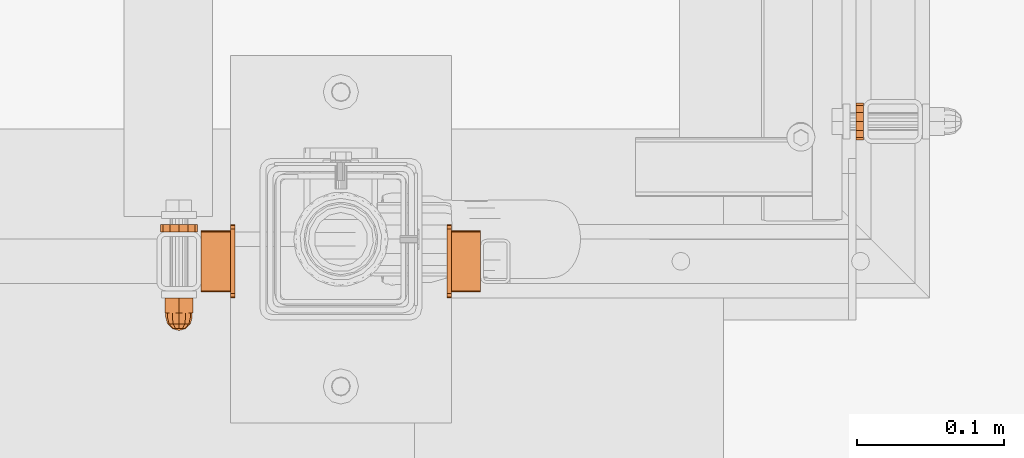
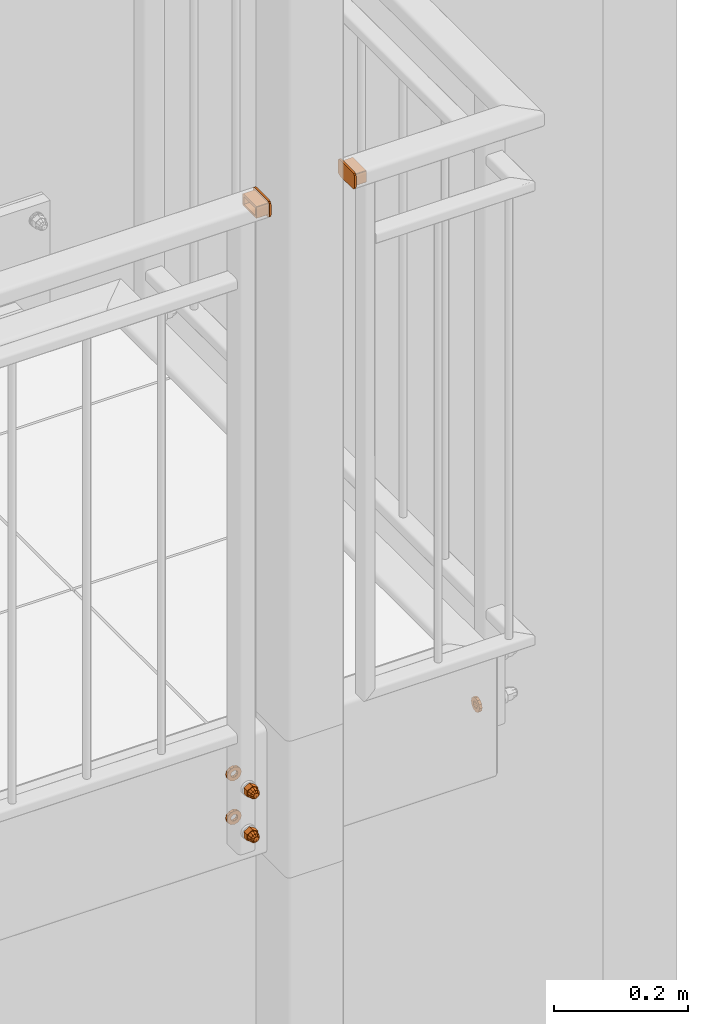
# One storey, part 123 of 162: 7 proxies.
"""IFC2X3 building model written with IfcOpenShell, lengths in millimetres."""

from ifc_helpers import new_model, entity, si_unit, converted_unit, origin_with_axes, place, context, project, spatial, faceted_brep, material, element, save


model = new_model("IFC2X3")

# Units and contexts
model_context = context("Model", 3, precision=1e-09, world=origin_with_axes())
ifc_project = project(units=[si_unit("LENGTHUNIT", "METRE", prefix="MILLI"), si_unit("AREAUNIT", "SQUARE_METRE"), si_unit("VOLUMEUNIT", "CUBIC_METRE"), converted_unit("PLANEANGLEUNIT", "DEGREE", entity("IfcPlaneAngleMeasure", 0.01745329), si_unit("PLANEANGLEUNIT", "RADIAN"), dimensions=[0, 0, 0, 0, 0, 0, 0])], contexts=[model_context])

# Site, building, storey
site_placement = place(None, origin_with_axes())
site = spatial("IfcSite", under=ifc_project, at=site_placement, Name="Hermannstra?e 1a, 60318 Frankfurt", CompositionType="ELEMENT")
building_placement = place(site_placement, origin_with_axes())
building = spatial("IfcBuilding", under=site, at=building_placement, Name="Struktur 1", CompositionType="ELEMENT")
storey_placement = place(building_placement, origin_with_axes())
storey = spatial("IfcBuildingStorey", under=building, at=storey_placement, Name="Default Storey", CompositionType="ELEMENT", Elevation=0.0)

# Proxies
ifc_material = material(Name="Kein")
proxy_1_placement = place(None, origin_with_axes())
element("IfcBuildingElementProxy", 1, at=proxy_1_placement, inside=storey, material=ifc_material, ObjectType="-", context=model_context, shape_type="Brep", body=[
    faceted_brep([(5378.30936482, 1494.609373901, 4949.0), (5378.30936482, 1494.609373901, 4931.0), (5398.30936482, 1494.609373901, 4931.0), (5398.30936482, 1494.609373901, 4949.0), (5398.30936482, 1494.877323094, 4950.0), (5378.30936482, 1494.877323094, 4950.0), (5378.30936482, 1495.609373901, 4950.732050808), (5398.30936482, 1495.609373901, 4950.732050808), (5398.30936482, 1496.609373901, 4951.0), (5378.30936482, 1496.609373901, 4951.0), (5378.30936482, 1494.877323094, 4930.0), (5398.30936482, 1494.877323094, 4930.0), (5378.30936482, 1495.609373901, 4929.267949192), (5398.30936482, 1495.609373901, 4929.267949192), (5378.30936482, 1534.609373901, 4951.0), (5378.30936482, 1535.609373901, 4950.732050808), (5378.30936482, 1536.341424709, 4950.0), (5378.30936482, 1536.609373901, 4949.0), (5378.30936482, 1536.609373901, 4931.0), (5378.30936482, 1536.341424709, 4930.0), (5378.30936482, 1535.609373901, 4929.267949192), (5378.30936482, 1534.609373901, 4929.0), (5378.30936482, 1496.609373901, 4929.0), (5378.30936482, 1498.609373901, 4947.0), (5378.30936482, 1498.609373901, 4933.0), (5378.30936482, 1532.609373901, 4933.0), (5378.30936482, 1532.609373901, 4947.0), (5398.30936482, 1496.609373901, 4929.0), (5398.30936482, 1534.609373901, 4929.0), (5398.30936482, 1535.609373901, 4929.267949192), (5398.30936482, 1536.341424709, 4930.0), (5398.30936482, 1536.609373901, 4931.0), (5398.30936482, 1536.609373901, 4949.0), (5398.30936482, 1536.341424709, 4950.0), (5398.30936482, 1535.609373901, 4950.732050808), (5398.30936482, 1534.609373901, 4951.0), (5398.30936482, 1498.609373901, 4947.0), (5398.30936482, 1498.609373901, 4933.0), (5398.30936482, 1532.609373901, 4933.0), (5398.30936482, 1532.609373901, 4947.0)], [[[0, 1, 2, 3]], [[0, 3, 4, 5]], [[6, 7, 8, 9]], [[5, 4, 7, 6]], [[2, 1, 10, 11]], [[11, 10, 12, 13]], [[5, 6, 9, 14, 15, 16, 17, 18, 19, 20, 21, 22, 12, 10, 1, 0], [23, 24, 25, 26]], [[3, 2, 11, 13, 27, 28, 29, 30, 31, 32, 33, 34, 35, 8, 7, 4]], [[34, 15, 14, 35]], [[14, 9, 8, 35]], [[36, 37, 24, 23]], [[15, 34, 33, 16]], [[13, 12, 22, 27]], [[25, 24, 37, 38]], [[22, 21, 28, 27]], [[28, 21, 20, 29]], [[39, 36, 23, 26]], [[16, 33, 32, 17]], [[29, 20, 19, 30]], [[26, 25, 38, 39]], [[18, 17, 32, 31]], [[30, 19, 18, 31]]]),
    faceted_brep([(5398.30936482, 1496.609373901, 4925.0), (5401.30936482, 1496.609373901, 4925.0), (5401.30936482, 1493.609373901, 4925.803847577), (5398.30936482, 1493.609373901, 4925.803847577), (5401.30936482, 1491.413221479, 4928.0), (5398.30936482, 1491.413221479, 4928.0), (5401.30936482, 1534.609373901, 4925.0), (5398.30936482, 1534.609373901, 4925.0), (5398.30936482, 1537.609373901, 4925.803847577), (5401.30936482, 1537.609373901, 4925.803847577), (5398.30936482, 1539.805526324, 4928.0), (5401.30936482, 1539.805526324, 4928.0), (5398.30936482, 1490.609373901, 4931.0), (5398.30936482, 1490.609373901, 4949.0), (5398.30936482, 1491.413221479, 4952.0), (5398.30936482, 1493.609373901, 4954.196152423), (5398.30936482, 1496.609373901, 4955.0), (5398.30936482, 1534.609373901, 4955.0), (5398.30936482, 1537.609373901, 4954.196152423), (5398.30936482, 1539.805526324, 4952.0), (5398.30936482, 1540.609373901, 4949.0), (5398.30936482, 1540.609373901, 4931.0), (5401.30936482, 1540.609373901, 4931.0), (5401.30936482, 1540.609373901, 4949.0), (5401.30936482, 1539.805526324, 4952.0), (5401.30936482, 1537.609373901, 4954.196152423), (5401.30936482, 1534.609373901, 4955.0), (5401.30936482, 1496.609373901, 4955.0), (5401.30936482, 1493.609373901, 4954.196152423), (5401.30936482, 1491.413221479, 4952.0), (5401.30936482, 1490.609373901, 4949.0), (5401.30936482, 1490.609373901, 4931.0)], [[[0, 1, 2, 3]], [[3, 2, 4, 5]], [[6, 7, 8, 9]], [[9, 8, 10, 11]], [[5, 12, 13, 14, 15, 16, 17, 18, 19, 20, 21, 10, 8, 7, 0, 3]], [[6, 1, 0, 7]], [[11, 22, 23, 24, 25, 26, 27, 28, 29, 30, 31, 4, 2, 1, 6, 9]], [[5, 4, 31, 12]], [[13, 12, 31, 30]], [[11, 10, 21, 22]], [[28, 15, 14, 29]], [[29, 14, 13, 30]], [[15, 28, 27, 16]], [[23, 22, 21, 20]], [[17, 16, 27, 26]], [[23, 20, 19, 24]], [[25, 18, 17, 26]], [[24, 19, 18, 25]]]),
])
proxy_2_placement = place(None, origin_with_axes())
element("IfcBuildingElementProxy", 2, at=proxy_2_placement, inside=storey, material=ifc_material, ObjectType="-", context=model_context, shape_type="Brep", body=[
    faceted_brep([(5568.30936482, 1494.609373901, 4931.0), (5568.30936482, 1494.609373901, 4949.0), (5548.30936482, 1494.609373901, 4949.0), (5548.30936482, 1494.609373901, 4931.0), (5568.30936482, 1494.877323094, 4950.0), (5548.30936482, 1494.877323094, 4950.0), (5548.30936482, 1495.609373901, 4950.732050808), (5568.30936482, 1495.609373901, 4950.732050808), (5568.30936482, 1496.609373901, 4951.0), (5548.30936482, 1496.609373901, 4951.0), (5548.30936482, 1494.877323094, 4930.0), (5568.30936482, 1494.877323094, 4930.0), (5548.30936482, 1495.609373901, 4929.267949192), (5568.30936482, 1495.609373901, 4929.267949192), (5568.30936482, 1496.609373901, 4929.0), (5568.30936482, 1534.609373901, 4929.0), (5568.30936482, 1535.609373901, 4929.267949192), (5568.30936482, 1536.341424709, 4930.0), (5568.30936482, 1536.609373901, 4931.0), (5568.30936482, 1536.609373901, 4949.0), (5568.30936482, 1536.341424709, 4950.0), (5568.30936482, 1535.609373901, 4950.732050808), (5568.30936482, 1534.609373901, 4951.0), (5568.30936482, 1498.609373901, 4947.0), (5568.30936482, 1532.609373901, 4947.0), (5568.30936482, 1532.609373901, 4933.0), (5568.30936482, 1498.609373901, 4933.0), (5548.30936482, 1534.609373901, 4951.0), (5548.30936482, 1535.609373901, 4950.732050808), (5548.30936482, 1536.341424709, 4950.0), (5548.30936482, 1536.609373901, 4949.0), (5548.30936482, 1536.609373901, 4931.0), (5548.30936482, 1536.341424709, 4930.0), (5548.30936482, 1535.609373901, 4929.267949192), (5548.30936482, 1534.609373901, 4929.0), (5548.30936482, 1496.609373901, 4929.0), (5548.30936482, 1498.609373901, 4947.0), (5548.30936482, 1498.609373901, 4933.0), (5548.30936482, 1532.609373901, 4933.0), (5548.30936482, 1532.609373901, 4947.0)], [[[0, 1, 2, 3]], [[2, 1, 4, 5]], [[6, 7, 8, 9]], [[5, 4, 7, 6]], [[0, 3, 10, 11]], [[11, 10, 12, 13]], [[7, 4, 1, 0, 11, 13, 14, 15, 16, 17, 18, 19, 20, 21, 22, 8], [23, 24, 25, 26]], [[3, 2, 5, 6, 9, 27, 28, 29, 30, 31, 32, 33, 34, 35, 12, 10], [36, 37, 38, 39]], [[21, 28, 27, 22]], [[8, 22, 27, 9]], [[37, 36, 23, 26]], [[28, 21, 20, 29]], [[13, 12, 35, 14]], [[26, 25, 38, 37]], [[15, 14, 35, 34]], [[15, 34, 33, 16]], [[36, 39, 24, 23]], [[29, 20, 19, 30]], [[16, 33, 32, 17]], [[25, 24, 39, 38]], [[19, 18, 31, 30]], [[17, 32, 31, 18]]]),
    faceted_brep([(5545.30936482, 1496.609373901, 4925.0), (5548.30936482, 1496.609373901, 4925.0), (5548.30936482, 1493.609373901, 4925.803847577), (5545.30936482, 1493.609373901, 4925.803847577), (5548.30936482, 1491.413221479, 4928.0), (5545.30936482, 1491.413221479, 4928.0), (5548.30936482, 1534.609373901, 4925.0), (5545.30936482, 1534.609373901, 4925.0), (5545.30936482, 1537.609373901, 4925.803847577), (5548.30936482, 1537.609373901, 4925.803847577), (5545.30936482, 1539.805526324, 4928.0), (5548.30936482, 1539.805526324, 4928.0), (5548.30936482, 1490.609373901, 4931.0), (5548.30936482, 1540.609373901, 4931.0), (5548.30936482, 1540.609373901, 4949.0), (5548.30936482, 1539.805526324, 4952.0), (5548.30936482, 1537.609373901, 4954.196152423), (5548.30936482, 1534.609373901, 4955.0), (5548.30936482, 1496.609373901, 4955.0), (5548.30936482, 1493.609373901, 4954.196152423), (5548.30936482, 1491.413221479, 4952.0), (5548.30936482, 1490.609373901, 4949.0), (5545.30936482, 1540.609373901, 4931.0), (5545.30936482, 1490.609373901, 4931.0), (5545.30936482, 1490.609373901, 4949.0), (5545.30936482, 1491.413221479, 4952.0), (5545.30936482, 1493.609373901, 4954.196152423), (5545.30936482, 1496.609373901, 4955.0), (5545.30936482, 1534.609373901, 4955.0), (5545.30936482, 1537.609373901, 4954.196152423), (5545.30936482, 1539.805526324, 4952.0), (5545.30936482, 1540.609373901, 4949.0)], [[[0, 1, 2, 3]], [[3, 2, 4, 5]], [[6, 7, 8, 9]], [[9, 8, 10, 11]], [[12, 4, 2, 1, 6, 9, 11, 13, 14, 15, 16, 17, 18, 19, 20, 21]], [[0, 7, 6, 1]], [[22, 10, 8, 7, 0, 3, 5, 23, 24, 25, 26, 27, 28, 29, 30, 31]], [[5, 4, 12, 23]], [[12, 21, 24, 23]], [[11, 10, 22, 13]], [[19, 26, 25, 20]], [[20, 25, 24, 21]], [[26, 19, 18, 27]], [[22, 31, 14, 13]], [[18, 17, 28, 27]], [[14, 31, 30, 15]], [[16, 29, 28, 17]], [[15, 30, 29, 16]]]),
])
proxy_3_placement = place(None, origin_with_axes())
element("IfcBuildingElementProxy", 3, at=proxy_3_placement, inside=storey, material=ifc_material, ObjectType="-", context=model_context, shape_type="Brep", body=[
    faceted_brep([(5357.30936482, 1490.609373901, 3815.0), (5357.30936482, 1480.609373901, 3815.0), (5358.113212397, 1480.609373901, 3812.0), (5358.113212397, 1490.609373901, 3812.0), (5360.30936482, 1480.609373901, 3809.803847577), (5360.30936482, 1490.609373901, 3809.803847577), (5358.113212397, 1490.609373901, 3818.0), (5358.113212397, 1480.609373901, 3818.0), (5353.829495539, 1490.609373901, 3820.473205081), (5363.30936482, 1490.609373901, 3825.946410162), (5372.7892341, 1490.609373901, 3820.473205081), (5372.7892341, 1490.609373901, 3809.526794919), (5363.30936482, 1490.609373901, 3804.053589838), (5353.829495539, 1490.609373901, 3809.526794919), (5360.30936482, 1490.609373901, 3820.196152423), (5363.30936482, 1490.609373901, 3809.0), (5366.30936482, 1490.609373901, 3809.803847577), (5368.505517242, 1490.609373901, 3812.0), (5369.30936482, 1490.609373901, 3815.0), (5368.505517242, 1490.609373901, 3818.0), (5366.30936482, 1490.609373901, 3820.196152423), (5363.30936482, 1490.609373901, 3821.0), (5363.30936482, 1480.609373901, 3825.946410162), (5353.829495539, 1480.609373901, 3820.473205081), (5353.829495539, 1480.609373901, 3809.526794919), (5363.30936482, 1480.609373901, 3804.053589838), (5372.7892341, 1480.609373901, 3809.526794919), (5372.7892341, 1480.609373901, 3820.473205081), (5360.30936482, 1480.609373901, 3820.196152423), (5363.30936482, 1480.609373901, 3821.0), (5366.30936482, 1480.609373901, 3820.196152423), (5368.505517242, 1480.609373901, 3818.0), (5369.30936482, 1480.609373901, 3815.0), (5368.505517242, 1480.609373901, 3812.0), (5366.30936482, 1480.609373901, 3809.803847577), (5363.30936482, 1480.609373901, 3809.0)], [[[0, 1, 2, 3]], [[3, 2, 4, 5]], [[1, 0, 6, 7]], [[8, 9, 10, 11, 12, 13], [14, 6, 0, 3, 5, 15, 16, 17, 18, 19, 20, 21]], [[22, 23, 24, 25, 26, 27], [1, 7, 28, 29, 30, 31, 32, 33, 34, 35, 4, 2]], [[7, 6, 14, 28]], [[24, 23, 8, 13]], [[5, 4, 35, 15]], [[13, 12, 25, 24]], [[28, 14, 21, 29]], [[23, 22, 9, 8]], [[15, 35, 34, 16]], [[12, 11, 26, 25]], [[29, 21, 20, 30]], [[22, 27, 10, 9]], [[16, 34, 33, 17]], [[27, 26, 11, 10]], [[30, 20, 19, 31]], [[17, 33, 32, 18]], [[31, 19, 18, 32]]]),
    faceted_brep([(5363.30936482, 1480.609373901, 3824.0), (5363.30936482, 1477.609373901, 3824.0), (5367.80936482, 1477.609373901, 3822.794228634), (5367.80936482, 1480.609373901, 3822.794228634), (5358.80936482, 1480.609373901, 3822.794228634), (5358.80936482, 1477.609373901, 3822.794228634), (5355.515136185, 1477.609373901, 3810.5), (5358.80936482, 1477.609373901, 3807.205771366), (5363.30936482, 1477.609373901, 3806.0), (5367.80936482, 1477.609373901, 3807.205771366), (5371.103593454, 1477.609373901, 3810.5), (5372.30936482, 1477.609373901, 3815.0), (5371.103593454, 1477.609373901, 3819.5), (5355.515136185, 1477.609373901, 3819.5), (5354.30936482, 1477.609373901, 3815.0), (5371.103593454, 1480.609373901, 3810.5), (5367.80936482, 1480.609373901, 3807.205771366), (5363.30936482, 1480.609373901, 3806.0), (5358.80936482, 1480.609373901, 3807.205771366), (5355.515136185, 1480.609373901, 3810.5), (5354.30936482, 1480.609373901, 3815.0), (5355.515136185, 1480.609373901, 3819.5), (5371.103593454, 1480.609373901, 3819.5), (5372.30936482, 1480.609373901, 3815.0)], [[[0, 1, 2, 3]], [[1, 0, 4, 5]], [[6, 7, 8, 9, 10, 11, 12, 2, 1, 5, 13, 14]], [[15, 16, 17, 18, 19, 20, 21, 4, 0, 3, 22, 23]], [[3, 2, 12, 22]], [[5, 4, 21, 13]], [[22, 12, 11, 23]], [[13, 21, 20, 14]], [[7, 18, 17, 8]], [[19, 6, 14, 20]], [[18, 7, 6, 19]], [[23, 11, 10, 15]], [[8, 17, 16, 9]], [[15, 10, 9, 16]]]),
    faceted_brep([(5355.515136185, 1477.609373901, 3819.5), (5356.55936482, 1473.109373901, 3818.897114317), (5359.412250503, 1473.109373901, 3821.75), (5358.80936482, 1477.609373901, 3822.794228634), (5371.103593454, 1477.609373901, 3810.5), (5367.80936482, 1477.609373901, 3807.205771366), (5363.30936482, 1477.609373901, 3806.0), (5358.80936482, 1477.609373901, 3807.205771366), (5355.515136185, 1477.609373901, 3810.5), (5354.30936482, 1477.609373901, 3815.0), (5363.30936482, 1477.609373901, 3824.0), (5367.80936482, 1477.609373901, 3822.794228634), (5371.103593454, 1477.609373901, 3819.5), (5372.30936482, 1477.609373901, 3815.0), (5363.30936482, 1473.109373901, 3822.794228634), (5355.515136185, 1473.109373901, 3815.0), (5358.80936482, 1469.815145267, 3815.0), (5359.412250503, 1469.815145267, 3817.25), (5367.206479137, 1473.109373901, 3821.75), (5361.05936482, 1469.815145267, 3818.897114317), (5356.55936482, 1473.109373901, 3811.102885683), (5359.412250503, 1469.815145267, 3812.75), (5363.30936482, 1469.815145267, 3819.5), (5363.30936482, 1468.609373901, 3815.0), (5359.412250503, 1473.109373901, 3808.25), (5361.05936482, 1469.815145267, 3811.102885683), (5363.30936482, 1473.109373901, 3807.205771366), (5370.05936482, 1473.109373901, 3818.897114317), (5365.55936482, 1469.815145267, 3818.897114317), (5363.30936482, 1469.815145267, 3810.5), (5367.206479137, 1473.109373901, 3808.25), (5365.55936482, 1469.815145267, 3811.102885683), (5371.103593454, 1473.109373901, 3815.0), (5367.206479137, 1469.815145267, 3817.25), (5370.05936482, 1473.109373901, 3811.102885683), (5367.206479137, 1469.815145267, 3812.75), (5367.80936482, 1469.815145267, 3815.0)], [[[0, 1, 2, 3]], [[4, 5, 6, 7, 8, 9, 0, 3, 10, 11, 12, 13]], [[3, 2, 14, 10]], [[15, 16, 17, 1]], [[1, 0, 9, 15]], [[10, 14, 18, 11]], [[1, 17, 19, 2]], [[16, 15, 20, 21]], [[2, 19, 22, 14]], [[23, 17, 16]], [[24, 25, 21, 20]], [[23, 16, 21]], [[24, 7, 6, 26]], [[20, 8, 7, 24]], [[15, 9, 8, 20]], [[11, 18, 27, 12]], [[14, 22, 28, 18]], [[23, 19, 17]], [[26, 29, 25, 24]], [[23, 21, 25]], [[23, 22, 19]], [[26, 6, 5, 30]], [[29, 26, 30, 31]], [[23, 25, 29]], [[12, 27, 32, 13]], [[18, 28, 33, 27]], [[23, 28, 22]], [[23, 29, 31]], [[23, 33, 28]], [[30, 5, 4, 34]], [[31, 30, 34, 35]], [[23, 31, 35]], [[13, 32, 34, 4]], [[27, 33, 36, 32]], [[23, 36, 33]], [[23, 35, 36]], [[35, 34, 32, 36]]]),
])
proxy_4_placement = place(None, origin_with_axes())
element("IfcBuildingElementProxy", 4, at=proxy_4_placement, inside=storey, material=ifc_material, ObjectType="-", context=model_context, shape_type="Brep", body=[
    faceted_brep([(5357.30936482, 1490.609373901, 3895.0), (5357.30936482, 1480.609373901, 3895.0), (5358.113212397, 1480.609373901, 3892.0), (5358.113212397, 1490.609373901, 3892.0), (5360.30936482, 1480.609373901, 3889.803847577), (5360.30936482, 1490.609373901, 3889.803847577), (5358.113212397, 1490.609373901, 3898.0), (5358.113212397, 1480.609373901, 3898.0), (5353.829495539, 1490.609373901, 3900.473205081), (5363.30936482, 1490.609373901, 3905.946410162), (5372.7892341, 1490.609373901, 3900.473205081), (5372.7892341, 1490.609373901, 3889.526794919), (5363.30936482, 1490.609373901, 3884.053589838), (5353.829495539, 1490.609373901, 3889.526794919), (5360.30936482, 1490.609373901, 3900.196152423), (5363.30936482, 1490.609373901, 3889.0), (5366.30936482, 1490.609373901, 3889.803847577), (5368.505517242, 1490.609373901, 3892.0), (5369.30936482, 1490.609373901, 3895.0), (5368.505517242, 1490.609373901, 3898.0), (5366.30936482, 1490.609373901, 3900.196152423), (5363.30936482, 1490.609373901, 3901.0), (5363.30936482, 1480.609373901, 3905.946410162), (5353.829495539, 1480.609373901, 3900.473205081), (5353.829495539, 1480.609373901, 3889.526794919), (5363.30936482, 1480.609373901, 3884.053589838), (5372.7892341, 1480.609373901, 3889.526794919), (5372.7892341, 1480.609373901, 3900.473205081), (5360.30936482, 1480.609373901, 3900.196152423), (5363.30936482, 1480.609373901, 3901.0), (5366.30936482, 1480.609373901, 3900.196152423), (5368.505517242, 1480.609373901, 3898.0), (5369.30936482, 1480.609373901, 3895.0), (5368.505517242, 1480.609373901, 3892.0), (5366.30936482, 1480.609373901, 3889.803847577), (5363.30936482, 1480.609373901, 3889.0)], [[[0, 1, 2, 3]], [[3, 2, 4, 5]], [[1, 0, 6, 7]], [[8, 9, 10, 11, 12, 13], [14, 6, 0, 3, 5, 15, 16, 17, 18, 19, 20, 21]], [[22, 23, 24, 25, 26, 27], [1, 7, 28, 29, 30, 31, 32, 33, 34, 35, 4, 2]], [[7, 6, 14, 28]], [[24, 23, 8, 13]], [[5, 4, 35, 15]], [[13, 12, 25, 24]], [[28, 14, 21, 29]], [[23, 22, 9, 8]], [[15, 35, 34, 16]], [[12, 11, 26, 25]], [[29, 21, 20, 30]], [[22, 27, 10, 9]], [[16, 34, 33, 17]], [[27, 26, 11, 10]], [[30, 20, 19, 31]], [[17, 33, 32, 18]], [[31, 19, 18, 32]]]),
    faceted_brep([(5363.30936482, 1480.609373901, 3904.0), (5363.30936482, 1477.609373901, 3904.0), (5367.80936482, 1477.609373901, 3902.794228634), (5367.80936482, 1480.609373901, 3902.794228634), (5358.80936482, 1480.609373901, 3902.794228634), (5358.80936482, 1477.609373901, 3902.794228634), (5355.515136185, 1477.609373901, 3890.5), (5358.80936482, 1477.609373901, 3887.205771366), (5363.30936482, 1477.609373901, 3886.0), (5367.80936482, 1477.609373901, 3887.205771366), (5371.103593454, 1477.609373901, 3890.5), (5372.30936482, 1477.609373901, 3895.0), (5371.103593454, 1477.609373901, 3899.5), (5355.515136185, 1477.609373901, 3899.5), (5354.30936482, 1477.609373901, 3895.0), (5371.103593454, 1480.609373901, 3890.5), (5367.80936482, 1480.609373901, 3887.205771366), (5363.30936482, 1480.609373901, 3886.0), (5358.80936482, 1480.609373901, 3887.205771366), (5355.515136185, 1480.609373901, 3890.5), (5354.30936482, 1480.609373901, 3895.0), (5355.515136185, 1480.609373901, 3899.5), (5371.103593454, 1480.609373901, 3899.5), (5372.30936482, 1480.609373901, 3895.0)], [[[0, 1, 2, 3]], [[1, 0, 4, 5]], [[6, 7, 8, 9, 10, 11, 12, 2, 1, 5, 13, 14]], [[15, 16, 17, 18, 19, 20, 21, 4, 0, 3, 22, 23]], [[3, 2, 12, 22]], [[5, 4, 21, 13]], [[22, 12, 11, 23]], [[13, 21, 20, 14]], [[7, 18, 17, 8]], [[19, 6, 14, 20]], [[18, 7, 6, 19]], [[23, 11, 10, 15]], [[8, 17, 16, 9]], [[15, 10, 9, 16]]]),
    faceted_brep([(5355.515136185, 1477.609373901, 3899.5), (5356.55936482, 1473.109373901, 3898.897114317), (5359.412250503, 1473.109373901, 3901.75), (5358.80936482, 1477.609373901, 3902.794228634), (5371.103593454, 1477.609373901, 3890.5), (5367.80936482, 1477.609373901, 3887.205771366), (5363.30936482, 1477.609373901, 3886.0), (5358.80936482, 1477.609373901, 3887.205771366), (5355.515136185, 1477.609373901, 3890.5), (5354.30936482, 1477.609373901, 3895.0), (5363.30936482, 1477.609373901, 3904.0), (5367.80936482, 1477.609373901, 3902.794228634), (5371.103593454, 1477.609373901, 3899.5), (5372.30936482, 1477.609373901, 3895.0), (5363.30936482, 1473.109373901, 3902.794228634), (5355.515136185, 1473.109373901, 3895.0), (5358.80936482, 1469.815145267, 3895.0), (5359.412250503, 1469.815145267, 3897.25), (5367.206479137, 1473.109373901, 3901.75), (5361.05936482, 1469.815145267, 3898.897114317), (5356.55936482, 1473.109373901, 3891.102885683), (5359.412250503, 1469.815145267, 3892.75), (5363.30936482, 1469.815145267, 3899.5), (5363.30936482, 1468.609373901, 3895.0), (5359.412250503, 1473.109373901, 3888.25), (5361.05936482, 1469.815145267, 3891.102885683), (5363.30936482, 1473.109373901, 3887.205771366), (5370.05936482, 1473.109373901, 3898.897114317), (5365.55936482, 1469.815145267, 3898.897114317), (5363.30936482, 1469.815145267, 3890.5), (5367.206479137, 1473.109373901, 3888.25), (5365.55936482, 1469.815145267, 3891.102885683), (5371.103593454, 1473.109373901, 3895.0), (5367.206479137, 1469.815145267, 3897.25), (5370.05936482, 1473.109373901, 3891.102885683), (5367.206479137, 1469.815145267, 3892.75), (5367.80936482, 1469.815145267, 3895.0)], [[[0, 1, 2, 3]], [[4, 5, 6, 7, 8, 9, 0, 3, 10, 11, 12, 13]], [[3, 2, 14, 10]], [[15, 16, 17, 1]], [[1, 0, 9, 15]], [[10, 14, 18, 11]], [[1, 17, 19, 2]], [[16, 15, 20, 21]], [[2, 19, 22, 14]], [[23, 17, 16]], [[24, 25, 21, 20]], [[23, 16, 21]], [[24, 7, 6, 26]], [[20, 8, 7, 24]], [[15, 9, 8, 20]], [[11, 18, 27, 12]], [[14, 22, 28, 18]], [[23, 19, 17]], [[26, 29, 25, 24]], [[23, 21, 25]], [[23, 22, 19]], [[26, 6, 5, 30]], [[29, 26, 30, 31]], [[23, 25, 29]], [[12, 27, 32, 13]], [[18, 28, 33, 27]], [[23, 28, 22]], [[23, 29, 31]], [[23, 33, 28]], [[30, 5, 4, 34]], [[31, 30, 34, 35]], [[23, 31, 35]], [[13, 32, 34, 4]], [[27, 33, 36, 32]], [[23, 36, 33]], [[23, 35, 36]], [[35, 34, 32, 36]]]),
])
proxy_5_placement = place(None, origin_with_axes())
element("IfcBuildingElementProxy", 5, at=proxy_5_placement, inside=storey, material=ifc_material, ObjectType="-", context=model_context, shape_type="Brep", body=[
    faceted_brep([(5352.484047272, 1535.609373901, 3888.75), (5357.05936482, 1535.609373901, 3884.174682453), (5363.30936482, 1535.609373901, 3882.5), (5369.55936482, 1535.609373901, 3884.174682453), (5374.134682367, 1535.609373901, 3888.75), (5375.80936482, 1535.609373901, 3895.0), (5374.134682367, 1535.609373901, 3901.25), (5369.55936482, 1535.609373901, 3905.825317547), (5363.30936482, 1535.609373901, 3907.5), (5357.05936482, 1535.609373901, 3905.825317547), (5352.484047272, 1535.609373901, 3901.25), (5350.80936482, 1535.609373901, 3895.0), (5363.30936482, 1535.609373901, 3889.0), (5360.30936482, 1535.609373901, 3889.803847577), (5358.113212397, 1535.609373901, 3892.0), (5357.30936482, 1535.609373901, 3895.0), (5358.113212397, 1535.609373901, 3898.0), (5360.30936482, 1535.609373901, 3900.196152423), (5363.30936482, 1535.609373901, 3901.0), (5366.30936482, 1535.609373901, 3900.196152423), (5368.505517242, 1535.609373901, 3898.0), (5369.30936482, 1535.609373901, 3895.0), (5368.505517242, 1535.609373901, 3892.0), (5366.30936482, 1535.609373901, 3889.803847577), (5352.484047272, 1540.609373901, 3888.75), (5357.05936482, 1540.609373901, 3884.174682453), (5350.80936482, 1540.609373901, 3895.0), (5352.484047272, 1540.609373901, 3901.25), (5357.05936482, 1540.609373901, 3905.825317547), (5363.30936482, 1540.609373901, 3907.5), (5369.55936482, 1540.609373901, 3905.825317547), (5374.134682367, 1540.609373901, 3901.25), (5375.80936482, 1540.609373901, 3895.0), (5374.134682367, 1540.609373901, 3888.75), (5369.55936482, 1540.609373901, 3884.174682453), (5363.30936482, 1540.609373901, 3882.5), (5358.113212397, 1540.609373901, 3898.0), (5357.30936482, 1540.609373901, 3895.0), (5358.113212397, 1540.609373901, 3892.0), (5360.30936482, 1540.609373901, 3889.803847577), (5363.30936482, 1540.609373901, 3889.0), (5366.30936482, 1540.609373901, 3889.803847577), (5368.505517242, 1540.609373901, 3892.0), (5369.30936482, 1540.609373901, 3895.0), (5368.505517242, 1540.609373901, 3898.0), (5366.30936482, 1540.609373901, 3900.196152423), (5363.30936482, 1540.609373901, 3901.0), (5360.30936482, 1540.609373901, 3900.196152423)], [[[0, 1, 2, 3, 4, 5, 6, 7, 8, 9, 10, 11], [12, 13, 14, 15, 16, 17, 18, 19, 20, 21, 22, 23]], [[0, 24, 25, 1]], [[24, 26, 27, 28, 29, 30, 31, 32, 33, 34, 35, 25], [36, 37, 38, 39, 40, 41, 42, 43, 44, 45, 46, 47]], [[38, 14, 13, 39]], [[24, 0, 11, 26]], [[14, 38, 37, 15]], [[39, 13, 12, 40]], [[1, 25, 35, 2]], [[26, 11, 10, 27]], [[15, 37, 36, 16]], [[40, 12, 23, 41]], [[2, 35, 34, 3]], [[27, 10, 9, 28]], [[16, 36, 47, 17]], [[22, 42, 41, 23]], [[3, 34, 33, 4]], [[42, 22, 21, 43]], [[28, 9, 8, 29]], [[17, 47, 46, 18]], [[20, 44, 43, 21]], [[4, 33, 32, 5]], [[45, 19, 18, 46]], [[44, 20, 19, 45]], [[29, 8, 7, 30]], [[5, 32, 31, 6]], [[30, 7, 6, 31]]]),
])
proxy_6_placement = place(None, origin_with_axes())
element("IfcBuildingElementProxy", 6, at=proxy_6_placement, inside=storey, material=ifc_material, ObjectType="-", context=model_context, shape_type="Brep", body=[
    faceted_brep([(5352.484047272, 1535.609373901, 3808.75), (5357.05936482, 1535.609373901, 3804.174682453), (5363.30936482, 1535.609373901, 3802.5), (5369.55936482, 1535.609373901, 3804.174682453), (5374.134682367, 1535.609373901, 3808.75), (5375.80936482, 1535.609373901, 3815.0), (5374.134682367, 1535.609373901, 3821.25), (5369.55936482, 1535.609373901, 3825.825317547), (5363.30936482, 1535.609373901, 3827.5), (5357.05936482, 1535.609373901, 3825.825317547), (5352.484047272, 1535.609373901, 3821.25), (5350.80936482, 1535.609373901, 3815.0), (5363.30936482, 1535.609373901, 3809.0), (5360.30936482, 1535.609373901, 3809.803847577), (5358.113212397, 1535.609373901, 3812.0), (5357.30936482, 1535.609373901, 3815.0), (5358.113212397, 1535.609373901, 3818.0), (5360.30936482, 1535.609373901, 3820.196152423), (5363.30936482, 1535.609373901, 3821.0), (5366.30936482, 1535.609373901, 3820.196152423), (5368.505517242, 1535.609373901, 3818.0), (5369.30936482, 1535.609373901, 3815.0), (5368.505517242, 1535.609373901, 3812.0), (5366.30936482, 1535.609373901, 3809.803847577), (5352.484047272, 1540.609373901, 3808.75), (5357.05936482, 1540.609373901, 3804.174682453), (5350.80936482, 1540.609373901, 3815.0), (5352.484047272, 1540.609373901, 3821.25), (5357.05936482, 1540.609373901, 3825.825317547), (5363.30936482, 1540.609373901, 3827.5), (5369.55936482, 1540.609373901, 3825.825317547), (5374.134682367, 1540.609373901, 3821.25), (5375.80936482, 1540.609373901, 3815.0), (5374.134682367, 1540.609373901, 3808.75), (5369.55936482, 1540.609373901, 3804.174682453), (5363.30936482, 1540.609373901, 3802.5), (5358.113212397, 1540.609373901, 3818.0), (5357.30936482, 1540.609373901, 3815.0), (5358.113212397, 1540.609373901, 3812.0), (5360.30936482, 1540.609373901, 3809.803847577), (5363.30936482, 1540.609373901, 3809.0), (5366.30936482, 1540.609373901, 3809.803847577), (5368.505517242, 1540.609373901, 3812.0), (5369.30936482, 1540.609373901, 3815.0), (5368.505517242, 1540.609373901, 3818.0), (5366.30936482, 1540.609373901, 3820.196152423), (5363.30936482, 1540.609373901, 3821.0), (5360.30936482, 1540.609373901, 3820.196152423)], [[[0, 1, 2, 3, 4, 5, 6, 7, 8, 9, 10, 11], [12, 13, 14, 15, 16, 17, 18, 19, 20, 21, 22, 23]], [[0, 24, 25, 1]], [[24, 26, 27, 28, 29, 30, 31, 32, 33, 34, 35, 25], [36, 37, 38, 39, 40, 41, 42, 43, 44, 45, 46, 47]], [[38, 14, 13, 39]], [[24, 0, 11, 26]], [[14, 38, 37, 15]], [[39, 13, 12, 40]], [[1, 25, 35, 2]], [[26, 11, 10, 27]], [[15, 37, 36, 16]], [[40, 12, 23, 41]], [[2, 35, 34, 3]], [[27, 10, 9, 28]], [[16, 36, 47, 17]], [[22, 42, 41, 23]], [[3, 34, 33, 4]], [[42, 22, 21, 43]], [[28, 9, 8, 29]], [[17, 47, 46, 18]], [[20, 44, 43, 21]], [[4, 33, 32, 5]], [[45, 19, 18, 46]], [[44, 20, 19, 45]], [[29, 8, 7, 30]], [[5, 32, 31, 6]], [[30, 7, 6, 31]]]),
])
proxy_7_placement = place(None, origin_with_axes())
element("IfcBuildingElementProxy", 7, at=proxy_7_placement, inside=storey, material=ifc_material, ObjectType="-", context=model_context, shape_type="Brep", body=[
    faceted_brep([(5828.30936482, 1599.784056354, 3808.75), (5828.30936482, 1604.359373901, 3804.174682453), (5828.30936482, 1610.609373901, 3802.5), (5828.30936482, 1616.859373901, 3804.174682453), (5828.30936482, 1621.434691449, 3808.75), (5828.30936482, 1623.109373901, 3815.0), (5828.30936482, 1621.434691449, 3821.25), (5828.30936482, 1616.859373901, 3825.825317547), (5828.30936482, 1610.609373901, 3827.5), (5828.30936482, 1604.359373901, 3825.825317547), (5828.30936482, 1599.784056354, 3821.25), (5828.30936482, 1598.109373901, 3815.0), (5828.30936482, 1610.609373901, 3809.0), (5828.30936482, 1607.609373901, 3809.803847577), (5828.30936482, 1605.413221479, 3812.0), (5828.30936482, 1604.609373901, 3815.0), (5828.30936482, 1605.413221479, 3818.0), (5828.30936482, 1607.609373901, 3820.196152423), (5828.30936482, 1610.609373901, 3821.0), (5828.30936482, 1613.609373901, 3820.196152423), (5828.30936482, 1615.805526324, 3818.0), (5828.30936482, 1616.609373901, 3815.0), (5828.30936482, 1615.805526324, 3812.0), (5828.30936482, 1613.609373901, 3809.803847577), (5823.30936482, 1599.784056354, 3808.75), (5823.30936482, 1604.359373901, 3804.174682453), (5823.30936482, 1598.109373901, 3815.0), (5823.30936482, 1599.784056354, 3821.25), (5823.30936482, 1604.359373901, 3825.825317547), (5823.30936482, 1610.609373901, 3827.5), (5823.30936482, 1616.859373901, 3825.825317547), (5823.30936482, 1621.434691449, 3821.25), (5823.30936482, 1623.109373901, 3815.0), (5823.30936482, 1621.434691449, 3808.75), (5823.30936482, 1616.859373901, 3804.174682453), (5823.30936482, 1610.609373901, 3802.5), (5823.30936482, 1605.413221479, 3818.0), (5823.30936482, 1604.609373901, 3815.0), (5823.30936482, 1605.413221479, 3812.0), (5823.30936482, 1607.609373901, 3809.803847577), (5823.30936482, 1610.609373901, 3809.0), (5823.30936482, 1613.609373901, 3809.803847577), (5823.30936482, 1615.805526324, 3812.0), (5823.30936482, 1616.609373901, 3815.0), (5823.30936482, 1615.805526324, 3818.0), (5823.30936482, 1613.609373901, 3820.196152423), (5823.30936482, 1610.609373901, 3821.0), (5823.30936482, 1607.609373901, 3820.196152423)], [[[0, 1, 2, 3, 4, 5, 6, 7, 8, 9, 10, 11], [12, 13, 14, 15, 16, 17, 18, 19, 20, 21, 22, 23]], [[0, 24, 25, 1]], [[24, 26, 27, 28, 29, 30, 31, 32, 33, 34, 35, 25], [36, 37, 38, 39, 40, 41, 42, 43, 44, 45, 46, 47]], [[38, 14, 13, 39]], [[24, 0, 11, 26]], [[14, 38, 37, 15]], [[39, 13, 12, 40]], [[1, 25, 35, 2]], [[26, 11, 10, 27]], [[15, 37, 36, 16]], [[40, 12, 23, 41]], [[2, 35, 34, 3]], [[27, 10, 9, 28]], [[16, 36, 47, 17]], [[22, 42, 41, 23]], [[3, 34, 33, 4]], [[42, 22, 21, 43]], [[28, 9, 8, 29]], [[17, 47, 46, 18]], [[20, 44, 43, 21]], [[4, 33, 32, 5]], [[45, 19, 18, 46]], [[44, 20, 19, 45]], [[29, 8, 7, 30]], [[5, 32, 31, 6]], [[30, 7, 6, 31]]]),
])

save(model, "model.ifc")
